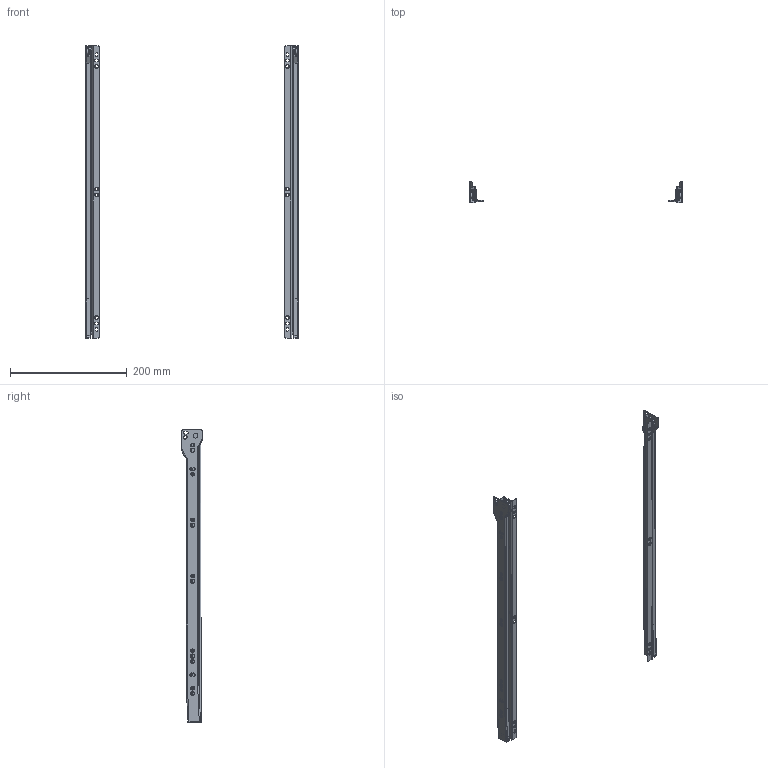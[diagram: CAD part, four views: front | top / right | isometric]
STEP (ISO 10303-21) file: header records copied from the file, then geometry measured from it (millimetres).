
FILE_DESCRIPTION(/* description */ (''),/* implementation_level */ '2;1');
FILE_NAME(/* name */ 'D:\$Workingspace\Designs\Katalog\Cadsoft\GTV Prowadnice\Prowadnice GTV_bryły 3D\PR-SP-500-10.stp',/* time_stamp */ '2016-11-22T15:26:22+01:00',/* author */ ('tomaszw'),/* organization */ (''),/* preprocessor_version */ 'ST-DEVELOPER v16.1',/* originating_system */ 'Autodesk Inventor 2016',/* authorisation */ '');
FILE_SCHEMA (('AUTOMOTIVE_DESIGN { 1 0 10303 214 3 1 1 }'));
Length unit declared in the file: millimetre
Products named in the file (5): PR-SP-500-10_CL; PR-SP-500-10_CR; PR-SP-500-10_DL; PR-SP-500-10_DR; PR-SP
Assembly tree (4 placements, depth 2):
  PR-SP
    PR-SP-500-10_CL
    PR-SP-500-10_CR
    PR-SP-500-10_DL
    PR-SP-500-10_DR
Bounding box: 364 x 36 x 500.01 mm (x, y, z)
Volume: 93226.1 mm3; surface area: 153913 mm2
Topology: 4 solids, 4 shells, 432 faces, 1080 edges, 668 vertices
Faces by surface type: cylinder 190, plane 158, cone 48, torus 28, sphere 8
Full cylindrical faces by diameter (mm): 5 x2, 5.4 x26, 5.5 x2, 6.4 x10, 7 x4, 8 x4, 18.5 x4
Entity records: 13177 total; most frequent: CARTESIAN_POINT 2271, DIRECTION 2268, ORIENTED_EDGE 1944, EDGE_CURVE 972, AXIS2_PLACEMENT_3D 869, VERTEX_POINT 660, EDGE_LOOP 652, LINE 530
